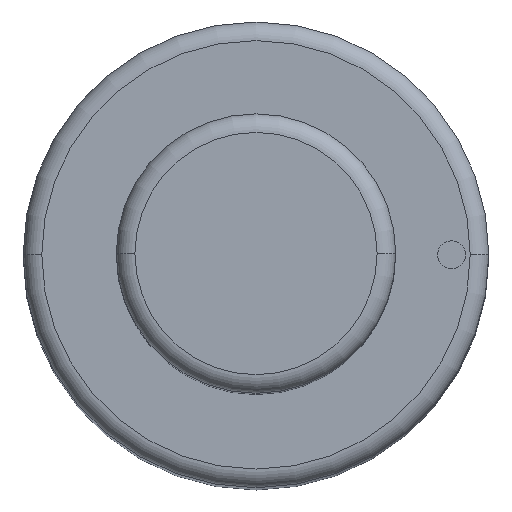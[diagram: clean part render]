
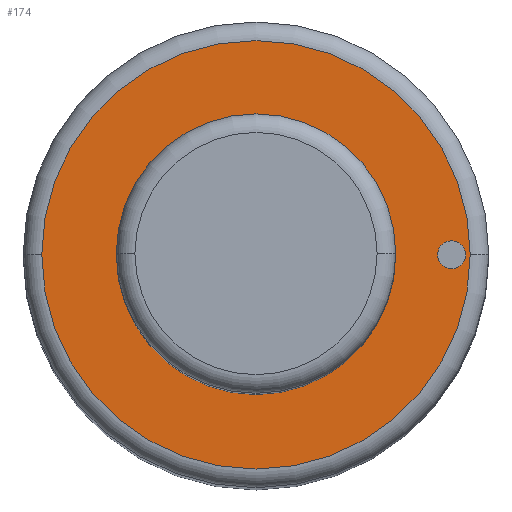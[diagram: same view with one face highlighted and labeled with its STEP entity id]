
A CAD part, top view. The second image highlights one B-rep face of the part: STEP entity #174.
In plain terms, the highlighted planar face has unit normal (0, 0, 1).
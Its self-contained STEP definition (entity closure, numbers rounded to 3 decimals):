
#99=FACE_BOUND('',#225,.T.);
#100=FACE_BOUND('',#226,.T.);
#101=FACE_BOUND('',#227,.T.);
#174=ADVANCED_FACE('',(#99,#100,#101),#180,.T.);
#180=PLANE('',#475);
#225=EDGE_LOOP('',(#307,#308));
#226=EDGE_LOOP('',(#309,#310));
#227=EDGE_LOOP('',(#311,#312));
#307=ORIENTED_EDGE('',*,*,#367,.F.);
#308=ORIENTED_EDGE('',*,*,#368,.F.);
#309=ORIENTED_EDGE('',*,*,#390,.F.);
#310=ORIENTED_EDGE('',*,*,#391,.F.);
#311=ORIENTED_EDGE('',*,*,#363,.T.);
#312=ORIENTED_EDGE('',*,*,#361,.T.);
#329=VERTEX_POINT('',#630);
#330=VERTEX_POINT('',#632);
#331=VERTEX_POINT('',#638);
#334=VERTEX_POINT('',#643);
#346=VERTEX_POINT('',#692);
#347=VERTEX_POINT('',#693);
#361=EDGE_CURVE('',#330,#329,#404,.T.);
#363=EDGE_CURVE('',#329,#330,#405,.T.);
#367=EDGE_CURVE('',#334,#331,#409,.T.);
#368=EDGE_CURVE('',#331,#334,#410,.T.);
#390=EDGE_CURVE('',#346,#347,#422,.T.);
#391=EDGE_CURVE('',#347,#346,#423,.T.);
#404=CIRCLE('',#440,7.5);
#405=CIRCLE('',#442,7.5);
#409=CIRCLE('',#447,11.5);
#410=CIRCLE('',#449,11.5);
#422=CIRCLE('',#473,0.75);
#423=CIRCLE('',#474,0.75);
#440=AXIS2_PLACEMENT_3D('',#631,#512,#513);
#442=AXIS2_PLACEMENT_3D('',#635,#517,#518);
#447=AXIS2_PLACEMENT_3D('',#644,#527,#528);
#449=AXIS2_PLACEMENT_3D('',#646,#531,#532);
#473=AXIS2_PLACEMENT_3D('',#691,#589,#590);
#474=AXIS2_PLACEMENT_3D('',#694,#591,#592);
#475=AXIS2_PLACEMENT_3D('',#695,#593,#594);
#512=DIRECTION('',(0.,0.,-1.));
#513=DIRECTION('',(0.,1.,0.));
#517=DIRECTION('',(0.,0.,-1.));
#518=DIRECTION('',(0.,-1.,0.));
#527=DIRECTION('',(0.,0.,-1.));
#528=DIRECTION('',(0.,1.,0.));
#531=DIRECTION('',(0.,0.,-1.));
#532=DIRECTION('',(0.,-1.,0.));
#589=DIRECTION('',(0.,0.,1.));
#590=DIRECTION('',(0.,1.,0.));
#591=DIRECTION('',(0.,0.,1.));
#592=DIRECTION('',(0.,-1.,0.));
#593=DIRECTION('',(0.,0.,1.));
#594=DIRECTION('',(0.,-1.,0.));
#630=CARTESIAN_POINT('',(-7.5,0.,72.));
#631=CARTESIAN_POINT('',(0.,0.,72.));
#632=CARTESIAN_POINT('',(7.5,0.,72.));
#635=CARTESIAN_POINT('',(0.,0.,72.));
#638=CARTESIAN_POINT('',(-11.5,0.,72.));
#643=CARTESIAN_POINT('',(11.5,0.,72.));
#644=CARTESIAN_POINT('',(0.,0.,72.));
#646=CARTESIAN_POINT('',(0.,0.,72.));
#691=CARTESIAN_POINT('',(10.5,0.,72.));
#692=CARTESIAN_POINT('',(9.75,0.,72.));
#693=CARTESIAN_POINT('',(11.25,0.,72.));
#694=CARTESIAN_POINT('',(10.5,0.,72.));
#695=CARTESIAN_POINT('',(0.,0.,72.));
